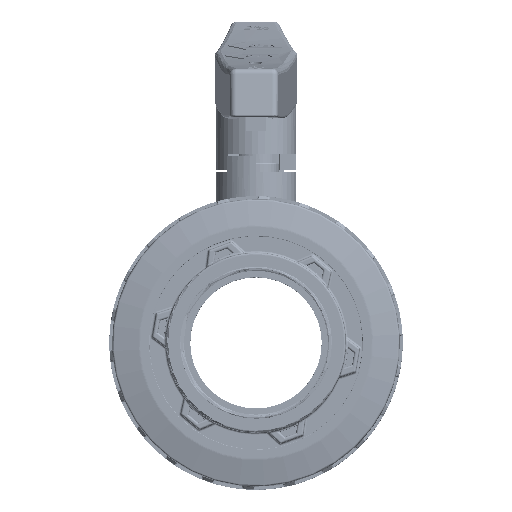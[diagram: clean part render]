
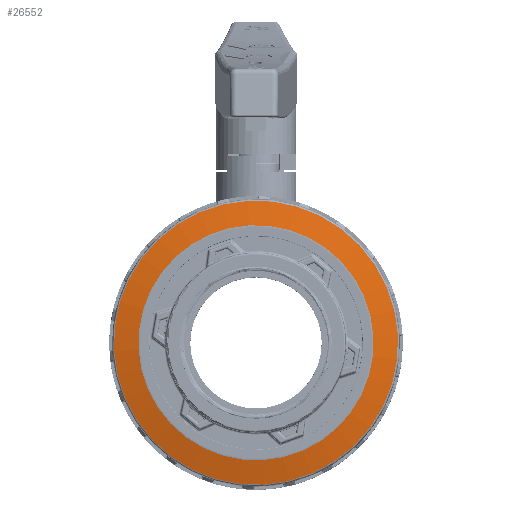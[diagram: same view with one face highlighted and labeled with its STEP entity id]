
A CAD part, top view. The second image highlights one B-rep face of the part: STEP entity #26552.
In plain terms, the highlighted conical face has half-angle 78 degrees and reference radius 64.35 mm.
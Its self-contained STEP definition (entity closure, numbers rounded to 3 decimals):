
#284=CONICAL_SURFACE('',#28730,64.35,1.361);
#729=FACE_BOUND('',#5418,.T.);
#1842=CIRCLE('',#28729,58.111);
#1843=CIRCLE('',#28731,70.208);
#3682=FACE_OUTER_BOUND('',#5417,.T.);
#5417=EDGE_LOOP('',(#20640));
#5418=EDGE_LOOP('',(#20641));
#11987=VERTEX_POINT('',#58584);
#11988=VERTEX_POINT('',#58587);
#15083=EDGE_CURVE('',#11987,#11987,#1842,.T.);
#15084=EDGE_CURVE('',#11988,#11988,#1843,.T.);
#20640=ORIENTED_EDGE('',*,*,#15084,.F.);
#20641=ORIENTED_EDGE('',*,*,#15083,.F.);
#26552=ADVANCED_FACE('',(#3682,#729),#284,.T.);
#28729=AXIS2_PLACEMENT_3D('',#58585,#33439,#33440);
#28730=AXIS2_PLACEMENT_3D('',#58586,#33441,#33442);
#28731=AXIS2_PLACEMENT_3D('',#58588,#33443,#33444);
#33439=DIRECTION('center_axis',(-1.,0.,0.));
#33440=DIRECTION('ref_axis',(0.,-1.,0.));
#33441=DIRECTION('center_axis',(1.,0.,0.));
#33442=DIRECTION('ref_axis',(0.,1.,0.));
#33443=DIRECTION('center_axis',(1.,0.,0.));
#33444=DIRECTION('ref_axis',(0.,-1.,0.));
#58584=CARTESIAN_POINT('',(0.087,58.111,0.));
#58585=CARTESIAN_POINT('Origin',(0.087,0.,0.));
#58586=CARTESIAN_POINT('Origin',(1.414,0.,0.));
#58587=CARTESIAN_POINT('',(2.659,70.208,0.));
#58588=CARTESIAN_POINT('Origin',(2.659,0.,0.));
